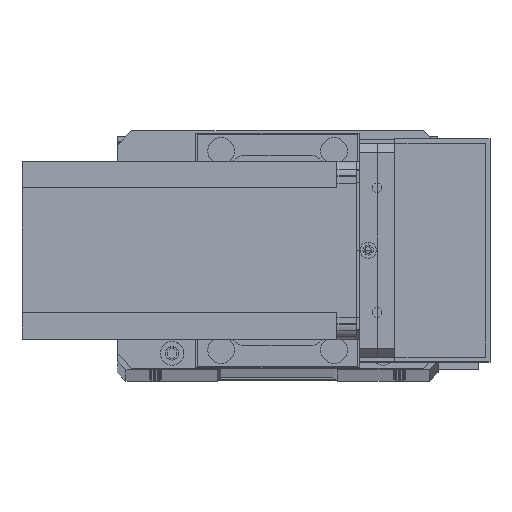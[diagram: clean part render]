
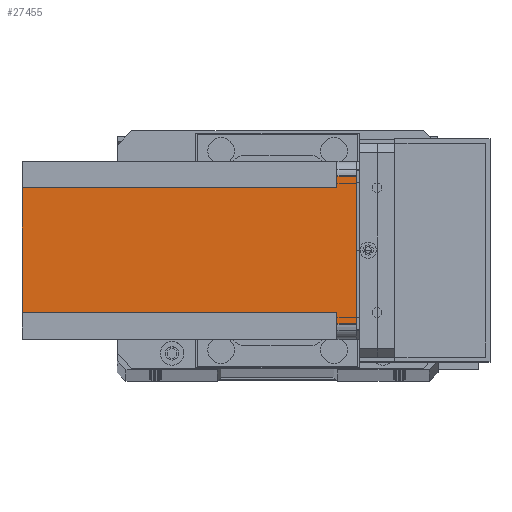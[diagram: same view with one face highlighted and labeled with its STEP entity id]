
A CAD part, top view. The second image highlights one B-rep face of the part: STEP entity #27455.
In plain terms, the highlighted planar face has unit normal (0, 0, 1) as drawn and (1, 0, 0) by its records, which use the part's own axes.
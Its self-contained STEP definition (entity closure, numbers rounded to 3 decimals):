
#415 = LINE ( 'NONE', #4088, #27091 ) ;
#719 = VECTOR ( 'NONE', #9249, 1000. ) ;
#1048 = VERTEX_POINT ( 'NONE', #27368 ) ;
#1591 = VECTOR ( 'NONE', #3725, 1000. ) ;
#2323 = LINE ( 'NONE', #6533, #28998 ) ;
#3506 = VECTOR ( 'NONE', #15050, 1000. ) ;
#3725 = DIRECTION ( 'NONE',  ( 0., -1., 0. ) ) ;
#3729 = VECTOR ( 'NONE', #32789, 1000. ) ;
#4088 = CARTESIAN_POINT ( 'NONE',  ( 60., 9., -112.5 ) ) ;
#4466 = PLANE ( 'NONE',  #14431 ) ;
#4507 = CARTESIAN_POINT ( 'NONE',  ( 60., 55., -6.5 ) ) ;
#4704 = VERTEX_POINT ( 'NONE', #5949 ) ;
#5086 = LINE ( 'NONE', #8113, #33377 ) ;
#5532 = CARTESIAN_POINT ( 'NONE',  ( 60., 0., -112.5 ) ) ;
#5949 = CARTESIAN_POINT ( 'NONE',  ( 60., 9., -112.5 ) ) ;
#6077 = EDGE_CURVE ( 'NONE', #4704, #11541, #415, .T. ) ;
#6494 = VECTOR ( 'NONE', #28796, 1000. ) ;
#6523 = VERTEX_POINT ( 'NONE', #6678 ) ;
#6533 = CARTESIAN_POINT ( 'NONE',  ( 60., 5., -112.5 ) ) ;
#6678 = CARTESIAN_POINT ( 'NONE',  ( 60., 5., 0. ) ) ;
#6900 = CARTESIAN_POINT ( 'NONE',  ( 60., 55., -112.5 ) ) ;
#7052 = DIRECTION ( 'NONE',  ( 0., 1., 0. ) ) ;
#7092 = VERTEX_POINT ( 'NONE', #27334 ) ;
#7710 = EDGE_CURVE ( 'NONE', #6523, #1048, #2323, .T. ) ;
#7759 = EDGE_CURVE ( 'NONE', #11541, #1048, #27395, .T. ) ;
#8113 = CARTESIAN_POINT ( 'NONE',  ( 60., 0., 0. ) ) ;
#8437 = LINE ( 'NONE', #8932, #1591 ) ;
#8878 = EDGE_CURVE ( 'NONE', #6523, #28900, #5086, .T. ) ;
#8932 = CARTESIAN_POINT ( 'NONE',  ( 60., 60., -6.5 ) ) ;
#9249 = DIRECTION ( 'NONE',  ( 0., -1., 0. ) ) ;
#10414 = LINE ( 'NONE', #22738, #3506 ) ;
#11541 = VERTEX_POINT ( 'NONE', #24199 ) ;
#11996 = CARTESIAN_POINT ( 'NONE',  ( 60., 0., -6.5 ) ) ;
#12887 = EDGE_CURVE ( 'NONE', #26873, #28900, #17520, .T. ) ;
#13362 = LINE ( 'NONE', #5532, #6494 ) ;
#14339 = DIRECTION ( 'NONE',  ( 0., 0., -1. ) ) ;
#14431 = AXIS2_PLACEMENT_3D ( 'NONE', #14761, #22559, #7052 ) ;
#14493 = DIRECTION ( 'NONE',  ( 0., 0., 1. ) ) ;
#14665 = ORIENTED_EDGE ( 'NONE', *, *, #32315, .T. ) ;
#14761 = CARTESIAN_POINT ( 'NONE',  ( 60., 0., -112.5 ) ) ;
#15050 = DIRECTION ( 'NONE',  ( 0., 0., -1. ) ) ;
#16335 = EDGE_CURVE ( 'NONE', #32077, #7092, #10414, .T. ) ;
#17430 = CARTESIAN_POINT ( 'NONE',  ( 60., 51., -6.5 ) ) ;
#17520 = LINE ( 'NONE', #6900, #3729 ) ;
#19049 = ORIENTED_EDGE ( 'NONE', *, *, #16335, .F. ) ;
#19531 = FACE_OUTER_BOUND ( 'NONE', #25706, .T. ) ;
#22087 = ORIENTED_EDGE ( 'NONE', *, *, #30182, .F. ) ;
#22559 = DIRECTION ( 'NONE',  ( 1., 0., 0. ) ) ;
#22738 = CARTESIAN_POINT ( 'NONE',  ( 60., 51., -112.5 ) ) ;
#23612 = DIRECTION ( 'NONE',  ( 0., 1., 0. ) ) ;
#24199 = CARTESIAN_POINT ( 'NONE',  ( 60., 9., -6.5 ) ) ;
#25706 = EDGE_LOOP ( 'NONE', ( #22087, #30537, #32343, #32910, #27505, #28254, #14665, #19049 ) ) ;
#26873 = VERTEX_POINT ( 'NONE', #4507 ) ;
#27091 = VECTOR ( 'NONE', #14493, 1000. ) ;
#27334 = CARTESIAN_POINT ( 'NONE',  ( 60., 51., -112.5 ) ) ;
#27368 = CARTESIAN_POINT ( 'NONE',  ( 60., 5., -6.5 ) ) ;
#27395 = LINE ( 'NONE', #11996, #719 ) ;
#27455 = ADVANCED_FACE ( 'NONE', ( #19531 ), #4466, .T. ) ;
#27505 = ORIENTED_EDGE ( 'NONE', *, *, #7759, .F. ) ;
#28254 = ORIENTED_EDGE ( 'NONE', *, *, #6077, .F. ) ;
#28796 = DIRECTION ( 'NONE',  ( 0., 1., 0. ) ) ;
#28900 = VERTEX_POINT ( 'NONE', #31052 ) ;
#28998 = VECTOR ( 'NONE', #14339, 1000. ) ;
#30182 = EDGE_CURVE ( 'NONE', #26873, #32077, #8437, .T. ) ;
#30537 = ORIENTED_EDGE ( 'NONE', *, *, #12887, .T. ) ;
#31052 = CARTESIAN_POINT ( 'NONE',  ( 60., 55., 0. ) ) ;
#32077 = VERTEX_POINT ( 'NONE', #17430 ) ;
#32315 = EDGE_CURVE ( 'NONE', #4704, #7092, #13362, .T. ) ;
#32343 = ORIENTED_EDGE ( 'NONE', *, *, #8878, .F. ) ;
#32789 = DIRECTION ( 'NONE',  ( 0., 0., 1. ) ) ;
#32910 = ORIENTED_EDGE ( 'NONE', *, *, #7710, .T. ) ;
#33377 = VECTOR ( 'NONE', #23612, 1000. ) ;
